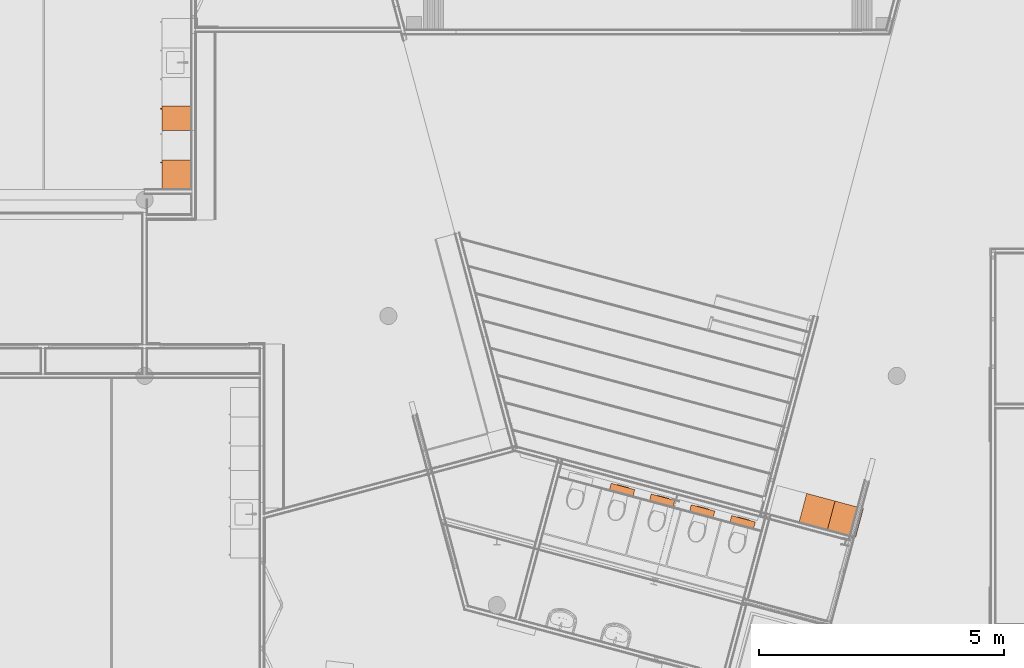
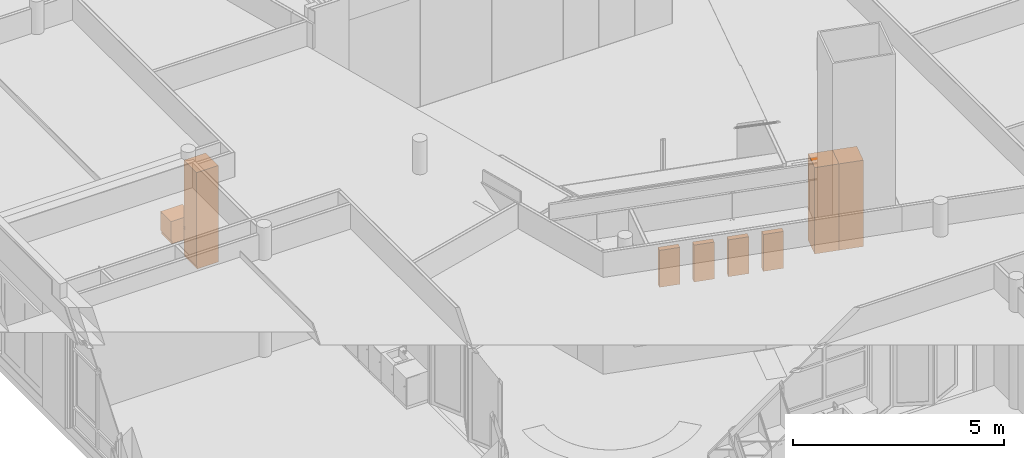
# One storey, part 91 of 167: 8 proxies.
"""IFC2X3 building model written with IfcOpenShell, lengths in millimetres."""

from ifc_helpers import new_model, entity, si_unit, converted_unit, derived_unit, money_unit, direction, frame, origin_with_axes, place, context, subcontext, project, spatial, open_shell, faceted_brep, surface_model, source, transform, mapped, type_object, type_shapes, element, save


model = new_model("IFC2X3")

# Units and contexts
model_context = context("Model", 3, precision=0.01, world=origin_with_axes(), true_north=direction((0.0, 1.0)))
plan_context = context("Plan", 3, precision=0.01, world=origin_with_axes(), true_north=direction((0.0, 1.0)))
body_context = subcontext(model_context, "Body", "Model", "MODEL_VIEW")
ifc_project = project(units=[si_unit("LENGTHUNIT", "METRE", prefix="MILLI"), si_unit("AREAUNIT", "SQUARE_METRE"), si_unit("VOLUMEUNIT", "CUBIC_METRE"), converted_unit("PLANEANGLEUNIT", "DEGREE", entity("IfcPlaneAngleMeasure", 0.0174532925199), si_unit("PLANEANGLEUNIT", "RADIAN"), dimensions=[0, 0, 0, 0, 0, 0, 0]), si_unit("SOLIDANGLEUNIT", "STERADIAN"), money_unit("EUR"), converted_unit("TIMEUNIT", "Year", entity("IfcTimeMeasure", 31556926.0), si_unit("TIMEUNIT", "SECOND"), dimensions=[0, 0, 1, 0, 0, 0, 0]), si_unit("MASSUNIT", "GRAM", prefix="KILO"), si_unit("THERMODYNAMICTEMPERATUREUNIT", "DEGREE_CELSIUS"), si_unit("LUMINOUSINTENSITYUNIT", "LUMEN"), si_unit("ENERGYUNIT", "JOULE", prefix="MEGA"), derived_unit("THERMALCONDUCTANCEUNIT", [(si_unit("POWERUNIT", "WATT"), 1), (si_unit("LENGTHUNIT", "METRE"), -1), (si_unit("THERMODYNAMICTEMPERATUREUNIT", "KELVIN"), -1)]), derived_unit("SPECIFICHEATCAPACITYUNIT", [(si_unit("ENERGYUNIT", "JOULE"), 1), (si_unit("MASSUNIT", "GRAM", prefix="KILO"), -1), (si_unit("THERMODYNAMICTEMPERATUREUNIT", "KELVIN"), -1)]), derived_unit("MASSDENSITYUNIT", [(si_unit("MASSUNIT", "GRAM", prefix="KILO"), 1), (si_unit("VOLUMEUNIT", "CUBIC_METRE"), -1)])], contexts=[model_context, plan_context])

# Site, building, storey
site_placement = place(None, origin_with_axes())
site = spatial("IfcSite", under=ifc_project, at=site_placement, Name="Site", CompositionType="ELEMENT")
building_placement = place(site_placement, origin_with_axes())
building = spatial("IfcBuilding", under=site, at=building_placement, Name="Naam gebouw", CompositionType="ELEMENT")
storey_placement = place(building_placement, origin_with_axes())
storey = spatial("IfcBuildingStorey", under=building, at=storey_placement, Name="Begane grond", CompositionType="ELEMENT", Elevation=0.0)

# Proxies
building_element_proxy_type_1 = type_object("IfcBuildingElementProxyType", Name="Kast basis 1D 24", PredefinedType="NOTDEFINED")
shared_shape_1 = source(origin_with_axes(), body_context, "Body", "Brep", [
    faceted_brep([(0.0, 20.0, 0.0), (0.0, 20.0, 90.0), (-500.0, 20.0, 90.0), (-500.0, 20.0, 0.0), (0.0, 600.0, 0.0), (0.0, 600.0, 90.0), (-500.0, 600.0, 90.0), (-500.0, 600.0, 0.0)], [[[0, 1, 2, 3]], [[4, 5, 1, 0]], [[1, 5, 6, 2]], [[3, 2, 6, 7]], [[0, 3, 7, 4]], [[7, 6, 5, 4]]]),
    faceted_brep([(0.0, 20.0, 580.0), (0.0, 20.0, 600.0), (-20.0, 20.0, 600.0), (-20.0, 20.0, 580.0), (0.0, 600.0, 580.0), (0.0, 600.0, 600.0), (-20.0, 600.0, 600.0), (-480.0, 600.0, 600.0), (-500.0, 600.0, 600.0), (-500.0, 20.0, 600.0), (-480.0, 20.0, 600.0), (-480.0, 20.0, 580.0), (-500.0, 20.0, 580.0), (-500.0, 600.0, 580.0), (-480.0, 600.0, 580.0), (-20.0, 600.0, 580.0)], [[[0, 1, 2, 3]], [[4, 5, 1, 0]], [[1, 5, 6, 7, 8, 9, 10, 2]], [[3, 2, 10, 11]], [[0, 3, 11, 12, 13, 14, 15, 4]], [[15, 6, 5, 4]], [[14, 7, 6, 15]], [[13, 8, 7, 14]], [[12, 9, 8, 13]], [[11, 10, 9, 12]]]),
    faceted_brep([(0.0, 20.0, 90.0), (0.0, 20.0, 110.0), (-20.0, 20.0, 110.0), (-20.0, 20.0, 90.0), (0.0, 600.0, 90.0), (0.0, 600.0, 110.0), (-20.0, 600.0, 110.0), (-480.0, 600.0, 110.0), (-500.0, 600.0, 110.0), (-500.0, 20.0, 110.0), (-480.0, 20.0, 110.0), (-480.0, 20.0, 90.0), (-500.0, 20.0, 90.0), (-500.0, 600.0, 90.0), (-480.0, 600.0, 90.0), (-20.0, 600.0, 90.0)], [[[0, 1, 2, 3]], [[4, 5, 1, 0]], [[1, 5, 6, 7, 8, 9, 10, 2]], [[3, 2, 10, 11]], [[0, 3, 11, 12, 13, 14, 15, 4]], [[15, 6, 5, 4]], [[14, 7, 6, 15]], [[13, 8, 7, 14]], [[12, 9, 8, 13]], [[11, 10, 9, 12]]]),
    faceted_brep([(0.0, 20.0, 110.0), (0.0, 20.0, 580.0), (-20.0, 20.0, 580.0), (-20.0, 20.0, 110.0), (0.0, 600.0, 110.0), (0.0, 600.0, 580.0), (-500.0, 600.0, 580.0), (-500.0, 20.0, 580.0), (-480.0, 20.0, 580.0), (-480.0, 580.0, 580.0), (-20.0, 580.0, 580.0), (-20.0, 580.0, 110.0), (-480.0, 580.0, 110.0), (-480.0, 20.0, 110.0), (-500.0, 20.0, 110.0), (-500.0, 600.0, 110.0)], [[[0, 1, 2, 3]], [[4, 5, 1, 0]], [[1, 5, 6, 7, 8, 9, 10, 2]], [[3, 2, 10, 11]], [[0, 3, 11, 12, 13, 14, 15, 4]], [[15, 6, 5, 4]], [[14, 7, 6, 15]], [[13, 8, 7, 14]], [[12, 9, 8, 13]], [[11, 10, 9, 12]]]),
    faceted_brep([(-480.0, 20.0, 325.0), (-480.0, 20.0, 345.0), (-480.0, 580.0, 345.0), (-480.0, 580.0, 325.0), (-20.0, 20.0, 325.0), (-20.0, 20.0, 345.0), (-20.0, 580.0, 345.0), (-20.0, 580.0, 325.0)], [[[0, 1, 2, 3]], [[4, 5, 1, 0]], [[1, 5, 6, 2]], [[3, 2, 6, 7]], [[0, 3, 7, 4]], [[7, 6, 5, 4]]]),
    faceted_brep([(0.0, 0.0, 600.0), (0.0, 0.0, 650.0), (-500.0, 0.0, 650.0), (-500.0, 0.0, 600.0), (0.0, 600.0, 600.0), (0.0, 600.0, 650.0), (-500.0, 600.0, 650.0), (-500.0, 600.0, 600.0)], [[[0, 1, 2, 3]], [[4, 5, 1, 0]], [[1, 5, 6, 2]], [[3, 2, 6, 7]], [[0, 3, 7, 4]], [[7, 6, 5, 4]]]),
    faceted_brep([(-1.5, 20.0, 91.5), (-1.5, 0.0, 91.5), (-498.5, 0.0, 91.5), (-498.5, 20.0, 91.5), (-1.5, 20.0, 598.5), (-1.5, 0.0, 598.5), (-498.5, 0.0, 598.5), (-498.5, 20.0, 598.5)], [[[0, 1, 2, 3]], [[4, 5, 1, 0]], [[1, 5, 6, 2]], [[3, 2, 6, 7]], [[0, 3, 7, 4]], [[7, 6, 5, 4]]]),
    faceted_brep([(-459.58655439, 0.0, 636.907798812), (-460.5, 0.0, 641.5), (-459.58655439, 0.0, 646.092201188), (-456.985281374, 0.0, 649.985281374), (-453.092201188, 0.0, 652.58655439), (-448.5, 0.0, 653.5), (-443.907798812, 0.0, 652.58655439), (-440.014718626, 0.0, 649.985281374), (-437.41344561, 0.0, 646.092201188), (-436.5, 0.0, 641.5), (-437.41344561, 0.0, 636.907798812), (-440.014718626, 0.0, 633.014718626), (-443.907798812, 0.0, 630.41344561), (-448.5, 0.0, 629.5), (-453.092201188, 0.0, 630.41344561), (-456.985281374, 0.0, 633.014718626), (-459.58655439, -25.0, 636.907798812), (-460.5, -25.0, 641.5), (-459.58655439, -25.0, 646.092201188), (-456.985281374, -25.0, 649.985281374), (-453.092201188, -25.0, 652.58655439), (-448.5, -25.0, 653.5), (-443.907798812, -25.0, 652.58655439), (-440.014718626, -25.0, 649.985281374), (-437.41344561, -25.0, 646.092201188), (-436.5, -25.0, 641.5), (-437.41344561, -25.0, 636.907798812), (-440.014718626, -25.0, 633.014718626), (-443.907798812, -25.0, 630.41344561), (-448.5, -25.0, 629.5), (-453.092201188, -25.0, 630.41344561), (-456.985281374, -25.0, 633.014718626)], [[[0, 1, 2, 3, 4, 5, 6, 7, 8, 9, 10, 11, 12, 13, 14, 15]], [[0, 16, 17, 1]], [[1, 17, 18, 2]], [[2, 18, 19, 3]], [[3, 19, 20, 4]], [[4, 20, 21, 5]], [[5, 21, 22, 6]], [[6, 22, 23, 7]], [[7, 23, 24, 8]], [[8, 24, 25, 9]], [[9, 25, 26, 10]], [[10, 26, 27, 11]], [[11, 27, 28, 12]], [[12, 28, 29, 13]], [[13, 29, 30, 14]], [[14, 30, 31, 15]], [[15, 31, 16, 0]], [[16, 31, 30, 29, 28, 27, 26, 25, 24, 23, 22, 21, 20, 19, 18, 17]]]),
])
type_shapes(building_element_proxy_type_1, [shared_shape_1])
proxy_1_placement = place(storey_placement, frame((7550.0, 23014.0, 0.0), z_axis=(0.0, 0.0, 1.0), x_axis=(0.0, -1.0, 0.0)))
element("IfcBuildingElementProxy", 1, at=proxy_1_placement, inside=storey, type_object=building_element_proxy_type_1, Name="__Object-x", context=body_context, shape_type="MappedRepresentation", body=[
    mapped(shared_shape_1, transform((0.0, 0.0, 0.0))),
])
building_element_proxy_type_2 = type_object("IfcBuildingElementProxyType", Name="Kast hoog 1D 24", PredefinedType="NOTDEFINED")
shared_shape_2 = source(origin_with_axes(), body_context, "Body", "Brep", [
    faceted_brep([(-20.0, 20.0, 838.5), (-20.0, 20.0, 858.5), (-580.0, 20.0, 858.5), (-580.0, 20.0, 838.5), (-20.0, 580.0, 838.5), (-20.0, 580.0, 858.5), (-580.0, 580.0, 858.5), (-580.0, 580.0, 838.5)], [[[0, 1, 2, 3]], [[4, 5, 1, 0]], [[1, 5, 6, 2]], [[3, 2, 6, 7]], [[0, 3, 7, 4]], [[7, 6, 5, 4]]]),
    faceted_brep([(0.0, 20.0, 0.0), (0.0, 20.0, 90.0), (-600.0, 20.0, 90.0), (-600.0, 20.0, 0.0), (0.0, 600.0, 0.0), (0.0, 600.0, 90.0), (-600.0, 600.0, 90.0), (-600.0, 600.0, 0.0)], [[[0, 1, 2, 3]], [[4, 5, 1, 0]], [[1, 5, 6, 2]], [[3, 2, 6, 7]], [[0, 3, 7, 4]], [[7, 6, 5, 4]]]),
    faceted_brep([(0.0, 20.0, 2780.0), (0.0, 20.0, 2800.0), (-20.0, 20.0, 2800.0), (-20.0, 20.0, 2780.0), (0.0, 600.0, 2780.0), (0.0, 600.0, 2800.0), (-20.0, 600.0, 2800.0), (-580.0, 600.0, 2800.0), (-600.0, 600.0, 2800.0), (-600.0, 20.0, 2800.0), (-580.0, 20.0, 2800.0), (-580.0, 20.0, 2780.0), (-600.0, 20.0, 2780.0), (-600.0, 600.0, 2780.0), (-580.0, 600.0, 2780.0), (-20.0, 600.0, 2780.0)], [[[0, 1, 2, 3]], [[4, 5, 1, 0]], [[1, 5, 6, 7, 8, 9, 10, 2]], [[3, 2, 10, 11]], [[0, 3, 11, 12, 13, 14, 15, 4]], [[15, 6, 5, 4]], [[14, 7, 6, 15]], [[13, 8, 7, 14]], [[12, 9, 8, 13]], [[11, 10, 9, 12]]]),
    faceted_brep([(0.0, 20.0, 90.0), (0.0, 20.0, 110.0), (-20.0, 20.0, 110.0), (-20.0, 20.0, 90.0), (0.0, 600.0, 90.0), (0.0, 600.0, 110.0), (-20.0, 600.0, 110.0), (-580.0, 600.0, 110.0), (-600.0, 600.0, 110.0), (-600.0, 20.0, 110.0), (-580.0, 20.0, 110.0), (-580.0, 20.0, 90.0), (-600.0, 20.0, 90.0), (-600.0, 600.0, 90.0), (-580.0, 600.0, 90.0), (-20.0, 600.0, 90.0)], [[[0, 1, 2, 3]], [[4, 5, 1, 0]], [[1, 5, 6, 7, 8, 9, 10, 2]], [[3, 2, 10, 11]], [[0, 3, 11, 12, 13, 14, 15, 4]], [[15, 6, 5, 4]], [[14, 7, 6, 15]], [[13, 8, 7, 14]], [[12, 9, 8, 13]], [[11, 10, 9, 12]]]),
    faceted_brep([(0.0, 20.0, 110.0), (0.0, 20.0, 2780.0), (-20.0, 20.0, 2780.0), (-20.0, 20.0, 110.0), (0.0, 600.0, 110.0), (0.0, 600.0, 2780.0), (-600.0, 600.0, 2780.0), (-600.0, 20.0, 2780.0), (-580.0, 20.0, 2780.0), (-580.0, 580.0, 2780.0), (-20.0, 580.0, 2780.0), (-20.0, 580.0, 110.0), (-580.0, 580.0, 110.0), (-580.0, 20.0, 110.0), (-600.0, 20.0, 110.0), (-600.0, 600.0, 110.0)], [[[0, 1, 2, 3]], [[4, 5, 1, 0]], [[1, 5, 6, 7, 8, 9, 10, 2]], [[3, 2, 10, 11]], [[0, 3, 11, 12, 13, 14, 15, 4]], [[15, 6, 5, 4]], [[14, 7, 6, 15]], [[13, 8, 7, 14]], [[12, 9, 8, 13]], [[11, 10, 9, 12]]]),
    faceted_brep([(-580.0, 20.0, 329.5), (-580.0, 20.0, 349.5), (-580.0, 580.0, 349.5), (-580.0, 580.0, 329.5), (-20.0, 20.0, 329.5), (-20.0, 20.0, 349.5), (-20.0, 580.0, 349.5), (-20.0, 580.0, 329.5)], [[[0, 1, 2, 3]], [[4, 5, 1, 0]], [[1, 5, 6, 2]], [[3, 2, 6, 7]], [[0, 3, 7, 4]], [[7, 6, 5, 4]]]),
    faceted_brep([(-580.0, 20.0, 589.0), (-580.0, 20.0, 609.0), (-580.0, 580.0, 609.0), (-580.0, 580.0, 589.0), (-20.0, 20.0, 589.0), (-20.0, 20.0, 609.0), (-20.0, 580.0, 609.0), (-20.0, 580.0, 589.0)], [[[0, 1, 2, 3]], [[4, 5, 1, 0]], [[1, 5, 6, 2]], [[3, 2, 6, 7]], [[0, 3, 7, 4]], [[7, 6, 5, 4]]]),
    faceted_brep([(-1.5, 20.0, 91.5), (-1.5, 0.0, 91.5), (-598.5, 0.0, 91.5), (-598.5, 20.0, 91.5), (-1.5, 20.0, 847.0), (-1.5, 0.0, 847.0), (-598.5, 0.0, 847.0), (-598.5, 20.0, 847.0)], [[[0, 1, 2, 3]], [[4, 5, 1, 0]], [[1, 5, 6, 2]], [[3, 2, 6, 7]], [[0, 3, 7, 4]], [[7, 6, 5, 4]]]),
    faceted_brep([(-560.091109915, 0.0, 838.394171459), (-560.5, 0.0, 841.5), (-560.091109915, 0.0, 844.605828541), (-558.892304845, 0.0, 847.5), (-556.985281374, 0.0, 849.985281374), (-554.5, 0.0, 851.892304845), (-551.605828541, 0.0, 853.091109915), (-548.5, 0.0, 853.5), (-545.394171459, 0.0, 853.091109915), (-542.5, 0.0, 851.892304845), (-540.014718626, 0.0, 849.985281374), (-538.107695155, 0.0, 847.5), (-536.908890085, 0.0, 844.605828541), (-536.5, 0.0, 841.5), (-536.908890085, 0.0, 838.394171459), (-538.107695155, 0.0, 835.5), (-540.014718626, 0.0, 833.014718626), (-542.5, 0.0, 831.107695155), (-545.394171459, 0.0, 829.908890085), (-548.5, 0.0, 829.5), (-551.605828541, 0.0, 829.908890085), (-554.5, 0.0, 831.107695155), (-556.985281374, 0.0, 833.014718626), (-558.892304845, 0.0, 835.5), (-560.091109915, -25.0, 838.394171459), (-560.5, -25.0, 841.5), (-560.091109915, -25.0, 844.605828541), (-558.892304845, -25.0, 847.5), (-556.985281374, -25.0, 849.985281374), (-554.5, -25.0, 851.892304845), (-551.605828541, -25.0, 853.091109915), (-548.5, -25.0, 853.5), (-545.394171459, -25.0, 853.091109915), (-542.5, -25.0, 851.892304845), (-540.014718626, -25.0, 849.985281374), (-538.107695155, -25.0, 847.5), (-536.908890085, -25.0, 844.605828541), (-536.5, -25.0, 841.5), (-536.908890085, -25.0, 838.394171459), (-538.107695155, -25.0, 835.5), (-540.014718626, -25.0, 833.014718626), (-542.5, -25.0, 831.107695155), (-545.394171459, -25.0, 829.908890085), (-548.5, -25.0, 829.5), (-551.605828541, -25.0, 829.908890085), (-554.5, -25.0, 831.107695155), (-556.985281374, -25.0, 833.014718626), (-558.892304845, -25.0, 835.5)], [[[0, 1, 2, 3, 4, 5, 6, 7, 8, 9, 10, 11, 12, 13, 14, 15, 16, 17, 18, 19, 20, 21, 22, 23]], [[0, 24, 25, 1]], [[1, 25, 26, 2]], [[2, 26, 27, 3]], [[3, 27, 28, 4]], [[4, 28, 29, 5]], [[5, 29, 30, 6]], [[6, 30, 31, 7]], [[7, 31, 32, 8]], [[8, 32, 33, 9]], [[9, 33, 34, 10]], [[10, 34, 35, 11]], [[11, 35, 36, 12]], [[12, 36, 37, 13]], [[13, 37, 38, 14]], [[14, 38, 39, 15]], [[15, 39, 40, 16]], [[16, 40, 41, 17]], [[17, 41, 42, 18]], [[18, 42, 43, 19]], [[19, 43, 44, 20]], [[20, 44, 45, 21]], [[21, 45, 46, 22]], [[22, 46, 47, 23]], [[23, 47, 24, 0]], [[24, 47, 46, 45, 44, 43, 42, 41, 40, 39, 38, 37, 36, 35, 34, 33, 32, 31, 30, 29, 28, 27, 26, 25]]]),
    faceted_brep([(-1.5, 20.0, 850.0), (-1.5, 0.0, 850.0), (-598.5, 0.0, 850.0), (-598.5, 20.0, 850.0), (-1.5, 20.0, 2798.5), (-1.5, 0.0, 2798.5), (-598.5, 0.0, 2798.5), (-598.5, 20.0, 2798.5)], [[[0, 1, 2, 3]], [[4, 5, 1, 0]], [[1, 5, 6, 2]], [[3, 2, 6, 7]], [[0, 3, 7, 4]], [[7, 6, 5, 4]]]),
    faceted_brep([(-560.091109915, 0.0, 896.894171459), (-560.5, 0.0, 900.0), (-560.091109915, 0.0, 903.105828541), (-558.892304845, 0.0, 906.0), (-556.985281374, 0.0, 908.485281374), (-554.5, 0.0, 910.392304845), (-551.605828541, 0.0, 911.591109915), (-548.5, 0.0, 912.0), (-545.394171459, 0.0, 911.591109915), (-542.5, 0.0, 910.392304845), (-540.014718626, 0.0, 908.485281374), (-538.107695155, 0.0, 906.0), (-536.908890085, 0.0, 903.105828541), (-536.5, 0.0, 900.0), (-536.908890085, 0.0, 896.894171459), (-538.107695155, 0.0, 894.0), (-540.014718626, 0.0, 891.514718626), (-542.5, 0.0, 889.607695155), (-545.394171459, 0.0, 888.408890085), (-548.5, 0.0, 888.0), (-551.605828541, 0.0, 888.408890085), (-554.5, 0.0, 889.607695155), (-556.985281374, 0.0, 891.514718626), (-558.892304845, 0.0, 894.0), (-560.091109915, -25.0, 896.894171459), (-560.5, -25.0, 900.0), (-560.091109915, -25.0, 903.105828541), (-558.892304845, -25.0, 906.0), (-556.985281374, -25.0, 908.485281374), (-554.5, -25.0, 910.392304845), (-551.605828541, -25.0, 911.591109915), (-548.5, -25.0, 912.0), (-545.394171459, -25.0, 911.591109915), (-542.5, -25.0, 910.392304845), (-540.014718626, -25.0, 908.485281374), (-538.107695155, -25.0, 906.0), (-536.908890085, -25.0, 903.105828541), (-536.5, -25.0, 900.0), (-536.908890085, -25.0, 896.894171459), (-538.107695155, -25.0, 894.0), (-540.014718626, -25.0, 891.514718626), (-542.5, -25.0, 889.607695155), (-545.394171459, -25.0, 888.408890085), (-548.5, -25.0, 888.0), (-551.605828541, -25.0, 888.408890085), (-554.5, -25.0, 889.607695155), (-556.985281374, -25.0, 891.514718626), (-558.892304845, -25.0, 894.0)], [[[0, 1, 2, 3, 4, 5, 6, 7, 8, 9, 10, 11, 12, 13, 14, 15, 16, 17, 18, 19, 20, 21, 22, 23]], [[0, 24, 25, 1]], [[1, 25, 26, 2]], [[2, 26, 27, 3]], [[3, 27, 28, 4]], [[4, 28, 29, 5]], [[5, 29, 30, 6]], [[6, 30, 31, 7]], [[7, 31, 32, 8]], [[8, 32, 33, 9]], [[9, 33, 34, 10]], [[10, 34, 35, 11]], [[11, 35, 36, 12]], [[12, 36, 37, 13]], [[13, 37, 38, 14]], [[14, 38, 39, 15]], [[15, 39, 40, 16]], [[16, 40, 41, 17]], [[17, 41, 42, 18]], [[18, 42, 43, 19]], [[19, 43, 44, 20]], [[20, 44, 45, 21]], [[21, 45, 46, 22]], [[22, 46, 47, 23]], [[23, 47, 24, 0]], [[24, 47, 46, 45, 44, 43, 42, 41, 40, 39, 38, 37, 36, 35, 34, 33, 32, 31, 30, 29, 28, 27, 26, 25]]]),
])
proxy_2_placement = place(storey_placement, frame((7550.0, 21814.0, 0.0), z_axis=(0.0, 0.0, 1.0), x_axis=(0.0, -1.0, 0.0)))
element("IfcBuildingElementProxy", 2, at=proxy_2_placement, inside=storey, type_object=building_element_proxy_type_2, Name="__Object-x", context=body_context, shape_type="MappedRepresentation", body=[
    mapped(shared_shape_2, transform((0.0, 0.0, 0.0))),
])
shared_shape_3 = source(origin_with_axes(), body_context, "Body", "Brep", [
    faceted_brep([(0.0, 0.0, 0.0), (0.0, 0.0, 90.0), (-600.0, 0.0, 90.0), (-600.0, 0.0, 0.0), (0.0, 600.0, 0.0), (0.0, 600.0, 90.0), (-600.0, 600.0, 90.0), (-600.0, 600.0, 0.0)], [[[0, 1, 2, 3]], [[4, 5, 1, 0]], [[1, 5, 6, 2]], [[3, 2, 6, 7]], [[0, 3, 7, 4]], [[7, 6, 5, 4]]]),
    faceted_brep([(0.0, 0.0, 2484.84598541), (0.0, 0.0, 2504.84598541), (-20.0, 0.0, 2504.84598541), (-20.0, 0.0, 2484.84598541), (0.0, 600.0, 2484.84598541), (0.0, 600.0, 2504.84598541), (-20.0, 600.0, 2504.84598541), (-580.0, 600.0, 2504.84598541), (-600.0, 600.0, 2504.84598541), (-600.0, 0.0, 2504.84598541), (-580.0, 0.0, 2504.84598541), (-580.0, 0.0, 2484.84598541), (-600.0, 0.0, 2484.84598541), (-600.0, 600.0, 2484.84598541), (-580.0, 600.0, 2484.84598541), (-20.0, 600.0, 2484.84598541)], [[[0, 1, 2, 3]], [[4, 5, 1, 0]], [[1, 5, 6, 7, 8, 9, 10, 2]], [[3, 2, 10, 11]], [[0, 3, 11, 12, 13, 14, 15, 4]], [[15, 6, 5, 4]], [[14, 7, 6, 15]], [[13, 8, 7, 14]], [[12, 9, 8, 13]], [[11, 10, 9, 12]]]),
    faceted_brep([(0.0, 0.0, 90.0), (0.0, 0.0, 110.0), (-20.0, 0.0, 110.0), (-20.0, 0.0, 90.0), (0.0, 600.0, 90.0), (0.0, 600.0, 110.0), (-20.0, 600.0, 110.0), (-580.0, 600.0, 110.0), (-600.0, 600.0, 110.0), (-600.0, 0.0, 110.0), (-580.0, 0.0, 110.0), (-580.0, 0.0, 90.0), (-600.0, 0.0, 90.0), (-600.0, 600.0, 90.0), (-580.0, 600.0, 90.0), (-20.0, 600.0, 90.0)], [[[0, 1, 2, 3]], [[4, 5, 1, 0]], [[1, 5, 6, 7, 8, 9, 10, 2]], [[3, 2, 10, 11]], [[0, 3, 11, 12, 13, 14, 15, 4]], [[15, 6, 5, 4]], [[14, 7, 6, 15]], [[13, 8, 7, 14]], [[12, 9, 8, 13]], [[11, 10, 9, 12]]]),
    faceted_brep([(0.0, 0.0, 110.0), (0.0, 0.0, 2484.84598541), (-20.0, 0.0, 2484.84598541), (-20.0, 0.0, 110.0), (0.0, 600.0, 110.0), (0.0, 600.0, 2484.84598541), (-600.0, 600.0, 2484.84598541), (-600.0, 0.0, 2484.84598541), (-580.0, 0.0, 2484.84598541), (-580.0, 580.0, 2484.84598541), (-20.0, 580.0, 2484.84598541), (-20.0, 580.0, 110.0), (-580.0, 580.0, 110.0), (-580.0, 0.0, 110.0), (-600.0, 0.0, 110.0), (-600.0, 600.0, 110.0)], [[[0, 1, 2, 3]], [[4, 5, 1, 0]], [[1, 5, 6, 7, 8, 9, 10, 2]], [[3, 2, 10, 11]], [[0, 3, 11, 12, 13, 14, 15, 4]], [[15, 6, 5, 4]], [[14, 7, 6, 15]], [[13, 8, 7, 14]], [[12, 9, 8, 13]], [[11, 10, 9, 12]]]),
    faceted_brep([(-580.0, 0.0, 472.474330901), (-580.0, 0.0, 492.474330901), (-580.0, 580.0, 492.474330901), (-580.0, 580.0, 472.474330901), (-20.0, 0.0, 472.474330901), (-20.0, 0.0, 492.474330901), (-20.0, 580.0, 492.474330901), (-20.0, 580.0, 472.474330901)], [[[0, 1, 2, 3]], [[4, 5, 1, 0]], [[1, 5, 6, 2]], [[3, 2, 6, 7]], [[0, 3, 7, 4]], [[7, 6, 5, 4]]]),
    faceted_brep([(-580.0, 0.0, 874.948661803), (-580.0, 0.0, 894.948661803), (-580.0, 580.0, 894.948661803), (-580.0, 580.0, 874.948661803), (-20.0, 0.0, 874.948661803), (-20.0, 0.0, 894.948661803), (-20.0, 580.0, 894.948661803), (-20.0, 580.0, 874.948661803)], [[[0, 1, 2, 3]], [[4, 5, 1, 0]], [[1, 5, 6, 2]], [[3, 2, 6, 7]], [[0, 3, 7, 4]], [[7, 6, 5, 4]]]),
    faceted_brep([(-580.0, 0.0, 1277.4229927), (-580.0, 0.0, 1297.4229927), (-580.0, 580.0, 1297.4229927), (-580.0, 580.0, 1277.4229927), (-20.0, 0.0, 1277.4229927), (-20.0, 0.0, 1297.4229927), (-20.0, 580.0, 1297.4229927), (-20.0, 580.0, 1277.4229927)], [[[0, 1, 2, 3]], [[4, 5, 1, 0]], [[1, 5, 6, 2]], [[3, 2, 6, 7]], [[0, 3, 7, 4]], [[7, 6, 5, 4]]]),
    faceted_brep([(-580.0, 0.0, 1679.89732361), (-580.0, 0.0, 1699.89732361), (-580.0, 580.0, 1699.89732361), (-580.0, 580.0, 1679.89732361), (-20.0, 0.0, 1679.89732361), (-20.0, 0.0, 1699.89732361), (-20.0, 580.0, 1699.89732361), (-20.0, 580.0, 1679.89732361)], [[[0, 1, 2, 3]], [[4, 5, 1, 0]], [[1, 5, 6, 2]], [[3, 2, 6, 7]], [[0, 3, 7, 4]], [[7, 6, 5, 4]]]),
    faceted_brep([(-580.0, 0.0, 2082.37165451), (-580.0, 0.0, 2102.37165451), (-580.0, 580.0, 2102.37165451), (-580.0, 580.0, 2082.37165451), (-20.0, 0.0, 2082.37165451), (-20.0, 0.0, 2102.37165451), (-20.0, 580.0, 2102.37165451), (-20.0, 580.0, 2082.37165451)], [[[0, 1, 2, 3]], [[4, 5, 1, 0]], [[1, 5, 6, 2]], [[3, 2, 6, 7]], [[0, 3, 7, 4]], [[7, 6, 5, 4]]]),
])
type_shapes(building_element_proxy_type_2, [shared_shape_2, shared_shape_3])
for number, where, z_axis, x_axis in (
    (3, (21315.6577184, 15440.7122356, 0.0), (0.0, 0.0, 1.0), (-0.965925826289, 0.258819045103, 0.0)),
    (4, (20736.1022227, 15596.0036627, 0.0), (0.0, 0.0, 1.0), (-0.965925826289, 0.258819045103, 0.0)),
):
    element("IfcBuildingElementProxy", number, at=place(storey_placement, frame(where, z_axis=z_axis, x_axis=x_axis)), inside=storey, type_object=building_element_proxy_type_2, Name="__Object-x", context=body_context, shape_type="MappedRepresentation", body=[
        mapped(shared_shape_3, transform((0.0, 0.0, 0.0))),
    ])
building_element_proxy_type_3 = type_object("IfcBuildingElementProxyType", Name="Inbouwreservoir 24 KM", PredefinedType="NOTDEFINED")
shared_shape_4 = source(origin_with_axes(), body_context, "Body", "SurfaceModel", [
    faceted_brep([(0.0, 0.0, 0.0), (0.0, 0.0, 1070.0), (-501.499856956, 0.0, 1070.0), (-501.499856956, 0.0, 0.0), (0.0, 145.000476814, 0.0), (0.0, 145.000476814, 1070.0), (-501.499856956, 145.000476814, 1070.0), (-501.499856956, 145.000476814, 0.0)], [[[0, 1, 2, 3]], [[4, 5, 1, 0]], [[1, 5, 6, 2]], [[3, 2, 6, 7]], [[0, 3, 7, 4]], [[7, 6, 5, 4]]]),
    surface_model("IfcShellBasedSurfaceModel", [(-1.0, 0.0, 0.0), (-1.0, 145.000476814, 1070.0), (-500.499856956, 145.000476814, 1070.0), (-500.499856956, 0.0, 0.0)], [open_shell([[[0, 1, 2, 3]]])]),
    surface_model("IfcShellBasedSurfaceModel", [(-1.0, 0.0, 1070.0), (-1.0, 145.000476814, 0.0), (-500.499856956, 145.000476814, 0.0), (-500.499856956, 0.0, 1070.0)], [open_shell([[[0, 1, 2, 3]]])]),
    faceted_brep([(-375.749928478, -10.0, 820.0), (-375.749928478, 0.0, 820.0), (-125.749928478, 0.0, 820.0), (-125.749928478, -10.0, 820.0), (-375.749928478, -10.0, 980.0), (-375.749928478, 0.0, 980.0), (-125.749928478, 0.0, 980.0), (-125.749928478, -10.0, 980.0)], [[[0, 1, 2, 3]], [[0, 4, 5, 1]], [[1, 5, 6, 2]], [[2, 6, 7, 3]], [[3, 7, 4, 0]], [[7, 6, 5, 4]]]),
    surface_model("IfcShellBasedSurfaceModel", [(-325.749928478, 0.0, 850.0), (-325.749928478, 0.0, 950.0), (-175.749928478, 0.0, 950.0), (-175.749928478, 0.0, 850.0)], [open_shell([[[0, 1, 2, 3]]])]),
    surface_model("IfcShellBasedSurfaceModel", [(-175.749928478, -10.0, 820.0), (-175.749928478, -10.0, 855.0), (-325.749928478, -10.0, 855.0), (-325.749928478, -10.0, 820.0)], [open_shell([[[0, 1, 2, 3]]])]),
    surface_model("IfcShellBasedSurfaceModel", [(-175.749928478, -10.0, 855.0), (-175.749928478, -10.0, 945.0), (-265.749928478, -10.0, 945.0), (-265.749928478, -10.0, 855.0)], [open_shell([[[0, 1, 2, 3]]])]),
    surface_model("IfcShellBasedSurfaceModel", [(-265.749928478, -10.0, 855.0), (-265.749928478, -10.0, 945.0), (-325.749928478, -10.0, 945.0), (-325.749928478, -10.0, 855.0)], [open_shell([[[0, 1, 2, 3]]])]),
])
type_shapes(building_element_proxy_type_3, [shared_shape_4])
for number, where, z_axis, x_axis in (
    (5, (16736.3608002, 15803.5148663, 0.0), (0.0, 0.0, 1.0), (-0.966006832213, 0.258516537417, 0.0)),
    (6, (17555.2212488, 15584.1018704, 0.0), (0.0, 0.0, 1.0), (-0.966006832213, 0.258516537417, 0.0)),
    (7, (18374.807106, 15364.4945018, 0.0), (0.0, 0.0, 1.0), (-0.966006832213, 0.258516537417, 0.0)),
    (8, (19201.7337876, 15142.9201653, 0.0), (0.0, 0.0, 1.0), (-0.966006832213, 0.258516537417, 0.0)),
):
    element("IfcBuildingElementProxy", number, at=place(storey_placement, frame(where, z_axis=z_axis, x_axis=x_axis)), inside=storey, type_object=building_element_proxy_type_3, Name="__Object-x", context=body_context, shape_type="MappedRepresentation", body=[
        mapped(shared_shape_4, transform((0.0, 0.0, 0.0))),
    ])

save(model, "model.ifc")
